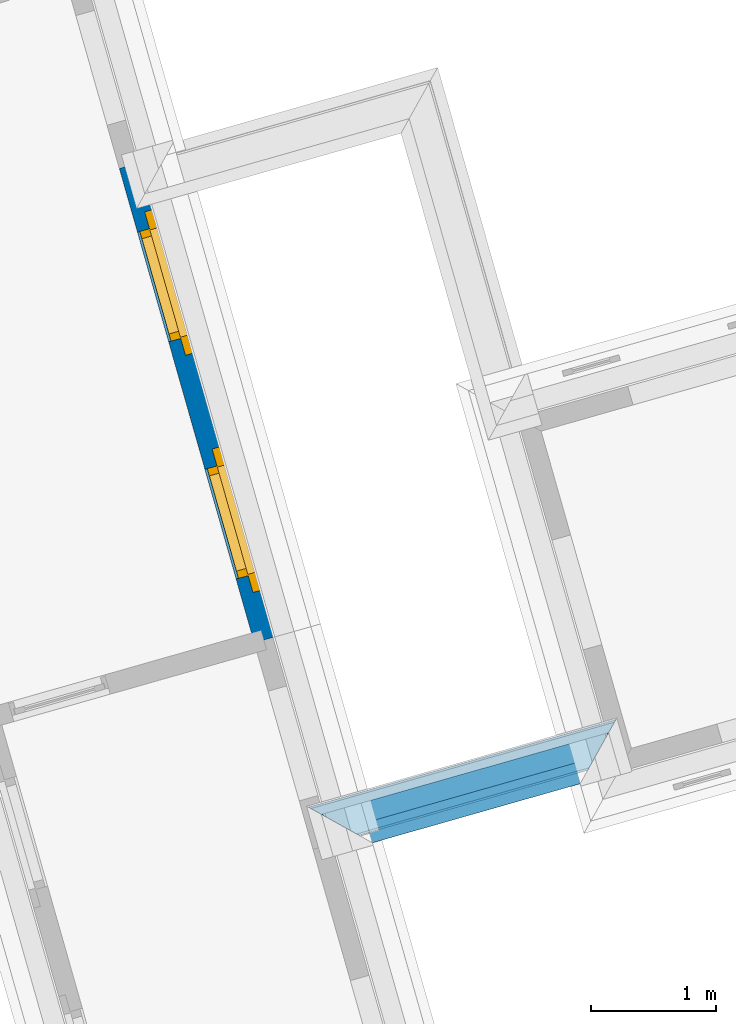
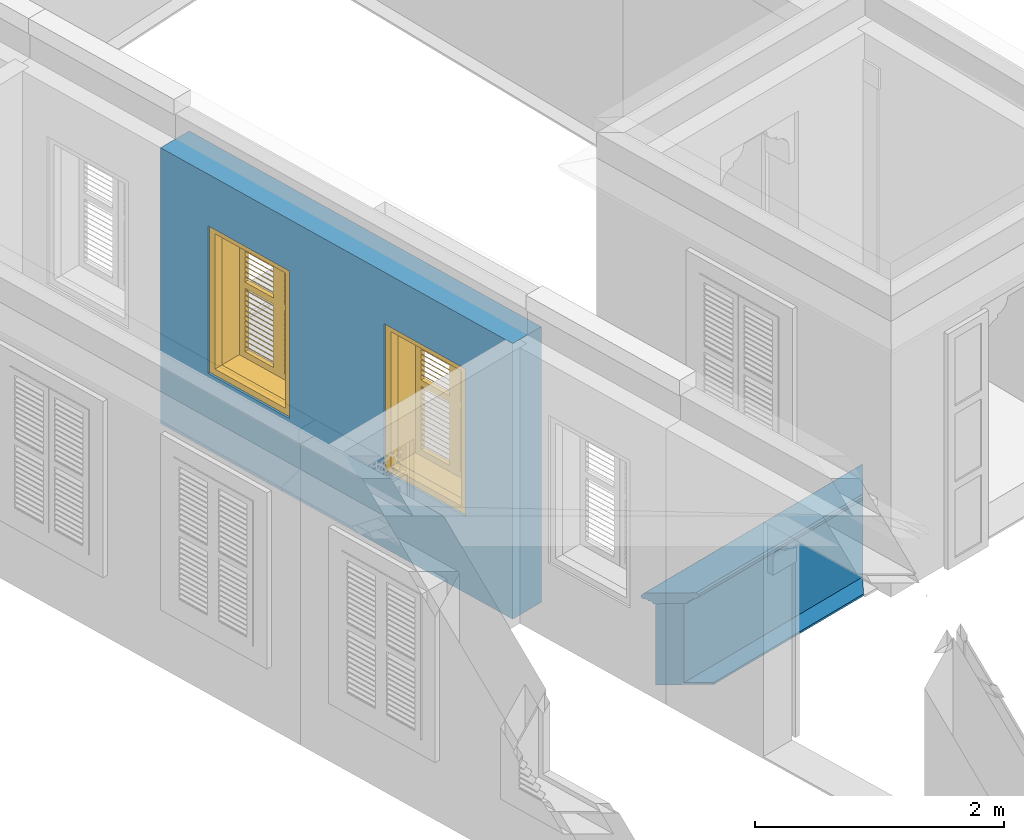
# One storey, part 4 of 13: 3 walls, 2 windows, 2 openings.
"""IFC4 building model written with IfcOpenShell, lengths in metres."""

from ifc_helpers import new_model, si_unit, frame, origin, origin_with_axes, place, context, subcontext, project, spatial, polyline, outline, extrude, clip, halfspace, faceted_brep, source, transform, mapped, material, layer, layer_set, layer_usage, material_profile, profile_set, profile_usage, type_object, type_shapes, element, fill, save


model = new_model("IFC4")

# Units and contexts
model_context = context("Model", 3, world=origin_with_axes())
body_context = subcontext(model_context, "Body", "Model", "MODEL_VIEW")
ifc_project = project(units=[si_unit("PLANEANGLEUNIT", "RADIAN"), si_unit("MASSUNIT", "GRAM", prefix="KILO"), si_unit("FORCEUNIT", "NEWTON", prefix="KILO"), si_unit("LENGTHUNIT", "METRE"), si_unit("AREAUNIT", "SQUARE_METRE"), si_unit("VOLUMEUNIT", "CUBIC_METRE")], contexts=[model_context, model_context])

# Site, building, storey
site_placement = place(None, origin_with_axes())
site = spatial("IfcSite", under=ifc_project, at=site_placement, Name="Site plot-3", CompositionType="ELEMENT")
building_placement = place(None, origin_with_axes())
building = spatial("IfcBuilding", under=site, at=building_placement, Name="Building plot-3", CompositionType="ELEMENT")
storey_placement = place(None, frame((0.0, 0.0, 3.3), z_axis=(0.0, 0.0, 1.0), x_axis=(1.0, 0.0, 0.0)))
storey = spatial("IfcBuildingStorey", under=building, at=storey_placement, Name="plot-3 1", CompositionType="ELEMENT", Elevation=3.3)

# Wall, openings, windows
ifc_material = material(Name="Masonry")
ifc_layer = layer(ifc_material, 0.33, ventilated=False)
ifc_layer_set = layer_set([ifc_layer], Name="exterior_0.08_0.25")
ifc_layer_usage = layer_usage(ifc_layer_set, "AXIS2", "POSITIVE", -0.25)
wall_type_1 = type_object("IfcWallType", Name="exterior_0.08_0.25", PredefinedType="SOLIDWALL", material=ifc_layer_set)
wall_1_placement = place(storey_placement, frame((11.135823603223, 21.3489503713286, 0.0), z_axis=(0.0, 0.0, 1.0), x_axis=(-0.273606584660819, 0.961841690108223, 0.0)))
wall_1 = element("IfcWall", 1, at=wall_1_placement, inside=storey, type_object=wall_type_1, material=ifc_layer_usage, Name="exterior", context=body_context, shape_type="SweptSolid", body=[
    extrude(outline(polyline([(-4.29388496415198e-15, 0.0799999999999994), (1.28938951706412e-14, -0.25), (3.93376585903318, -0.25), (3.93376585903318, 0.0800000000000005), (-4.29388496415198e-15, 0.0799999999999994)])), origin_with_axes(), (0.0, 0.0, 1.0), 2.7),
])
opening_1_placement = place(wall_1_placement, frame((0.528441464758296, 0.0, 0.75)))
opening_1 = element("IfcOpeningElement", 2, at=opening_1_placement, cuts=wall_1, Name="My Opening", ObjectType="Opening", context=body_context, shape_type="SweptSolid", body=[
    extrude(outline(polyline([(0.0, -0.269999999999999), (0.909999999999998, -0.27), (0.909999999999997, 1.1), (-5.55111512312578e-16, 1.1), (0.0, -0.269999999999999)])), origin_with_axes(), (0.0, 0.0, 1.0), 1.445),
])
opening_2_placement = place(wall_1_placement, frame((2.49532439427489, 0.0, 0.75)))
opening_2 = element("IfcOpeningElement", 3, at=opening_2_placement, cuts=wall_1, Name="My Opening", ObjectType="Opening", context=body_context, shape_type="SweptSolid", body=[
    extrude(outline(polyline([(0.0, -0.269999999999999), (0.909999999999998, -0.27), (0.909999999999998, 1.1), (0.0, 1.1), (0.0, -0.269999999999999)])), origin_with_axes(), (0.0, 0.0, 1.0), 1.445),
])
window_type = type_object("IfcWindowType", Name="shuttered_shorter", PartitioningType="DOUBLE_PANEL_HORIZONTAL", PredefinedType="NOTDEFINED")
shared_shape = source(origin(), body_context, "Body", "Brep", [
    faceted_brep([(0.393, 0.0, 0.622), (0.074, 0.0, 0.622), (0.074, 0.0, 0.632), (0.393, 0.0, 0.632), (0.074, -0.04, 0.592), (0.393, -0.04, 0.592), (0.393, -0.04, 0.582), (0.074, -0.04, 0.582), (0.517, 0.0, 0.682), (0.836, 0.0, 0.682), (0.836, 0.0, 0.672), (0.517, 0.0, 0.672), (0.517, -0.04, 0.642), (0.836, -0.04, 0.642), (0.836, -0.04, 0.632), (0.517, -0.04, 0.632), (0.517, 0.0, 0.632), (0.836, 0.0, 0.632), (0.836, 0.0, 0.622), (0.517, 0.0, 0.622), (0.517, -0.04, 0.592), (0.836, -0.04, 0.592), (0.836, -0.04, 0.582), (0.517, -0.04, 0.582), (0.517, 0.0, 0.232), (0.836, 0.0, 0.232), (0.836, 0.0, 0.222), (0.517, 0.0, 0.222), (0.517, -0.04, 0.192), (0.836, -0.04, 0.192), (0.836, -0.04, 0.182), (0.517, -0.04, 0.182), (0.517, 0.0, 0.532), (0.836, 0.0, 0.532), (0.836, 0.0, 0.522), (0.517, 0.0, 0.522), (0.517, -0.04, 0.492), (0.836, -0.04, 0.492), (0.836, -0.04, 0.482), (0.517, -0.04, 0.482), (0.517, 0.0, 0.482), (0.836, 0.0, 0.482), (0.836, 0.0, 0.472), (0.517, 0.0, 0.472), (0.517, -0.04, 0.442), (0.836, -0.04, 0.442), (0.836, -0.04, 0.432), (0.517, -0.04, 0.432), (0.517, 0.0, 0.582), (0.836, 0.0, 0.582), (0.836, 0.0, 0.572), (0.517, 0.0, 0.572), (0.517, -0.04, 0.542), (0.836, -0.04, 0.542), (0.836, -0.04, 0.532), (0.517, -0.04, 0.532), (0.517, 0.0, 0.182), (0.836, 0.0, 0.182), (0.836, 0.0, 0.172), (0.517, 0.0, 0.172), (0.517, -0.04, 0.142), (0.836, -0.04, 0.142), (0.836, -0.04, 0.132), (0.517, -0.04, 0.132), (0.517, 0.0, 0.382), (0.836, 0.0, 0.382), (0.836, 0.0, 0.372), (0.517, 0.0, 0.372), (0.517, -0.04, 0.342), (0.836, -0.04, 0.342), (0.836, -0.04, 0.332), (0.517, -0.04, 0.332), (0.517, 0.0, 0.432), (0.836, 0.0, 0.432), (0.836, 0.0, 0.422), (0.517, 0.0, 0.422), (0.517, -0.04, 0.392), (0.836, -0.04, 0.392), (0.836, -0.04, 0.382), (0.517, -0.04, 0.382), (0.517, 0.0, 0.132), (0.836, 0.0, 0.132), (0.836, 0.0, 0.122), (0.517, 0.0, 0.122), (0.517, -0.04, 0.092), (0.836, -0.04, 0.092), (0.836, -0.04, 0.082), (0.517, -0.04, 0.082), (0.517, 0.0, 0.282), (0.836, 0.0, 0.282), (0.836, 0.0, 0.272), (0.517, 0.0, 0.272), (0.517, -0.04, 0.242), (0.836, -0.04, 0.242), (0.836, -0.04, 0.232), (0.517, -0.04, 0.232), (0.517, 0.0, 0.332), (0.836, 0.0, 0.332), (0.836, 0.0, 0.322), (0.517, 0.0, 0.322), (0.517, -0.04, 0.292), (0.836, -0.04, 0.292), (0.836, -0.04, 0.282), (0.517, -0.04, 0.282), (0.517, 0.0, 1.362667), (0.836, 0.0, 1.362667), (0.836, 0.0, 1.352667), (0.517, 0.0, 1.352667), (0.517, -0.04, 1.322667), (0.836, -0.04, 1.322667), (0.836, -0.04, 1.312667), (0.517, -0.04, 1.312667), (0.517, 0.0, 1.312667), (0.836, 0.0, 1.312667), (0.836, 0.0, 1.302667), (0.517, 0.0, 1.302667), (0.517, -0.04, 1.272667), (0.836, -0.04, 1.272667), (0.836, -0.04, 1.262667), (0.517, -0.04, 1.262667), (0.517, 0.0, 0.912667), (0.836, 0.0, 0.912667), (0.836, 0.0, 0.902667), (0.517, 0.0, 0.902667), (0.517, -0.04, 0.872667), (0.836, -0.04, 0.872667), (0.836, -0.04, 0.862667), (0.517, -0.04, 0.862667), (0.517, 0.0, 1.212667), (0.836, 0.0, 1.212667), (0.836, 0.0, 1.202667), (0.517, 0.0, 1.202667), (0.517, -0.04, 1.172667), (0.836, -0.04, 1.172667), (0.836, -0.04, 1.162667), (0.517, -0.04, 1.162667), (0.517, 0.0, 1.162667), (0.836, 0.0, 1.162667), (0.836, 0.0, 1.152667), (0.517, 0.0, 1.152667), (0.517, -0.04, 1.122667), (0.836, -0.04, 1.122667), (0.836, -0.04, 1.112667), (0.517, -0.04, 1.112667), (0.517, 0.0, 1.262667), (0.836, 0.0, 1.262667), (0.836, 0.0, 1.252667), (0.517, 0.0, 1.252667), (0.517, -0.04, 1.222667), (0.836, -0.04, 1.222667), (0.836, -0.04, 1.212667), (0.517, -0.04, 1.212667), (0.517, 0.0, 0.862667), (0.836, 0.0, 0.862667), (0.836, 0.0, 0.852667), (0.517, 0.0, 0.852667), (0.517, -0.04, 0.822667), (0.836, -0.04, 0.822667), (0.836, -0.04, 0.812667), (0.517, -0.04, 0.812667), (0.517, 0.0, 1.062667), (0.836, 0.0, 1.062667), (0.836, 0.0, 1.052667), (0.517, 0.0, 1.052667), (0.517, -0.04, 1.022667), (0.836, -0.04, 1.022667), (0.836, -0.04, 1.012667), (0.517, -0.04, 1.012667), (0.517, 0.0, 1.112667), (0.836, 0.0, 1.112667), (0.836, 0.0, 1.102667), (0.517, 0.0, 1.102667), (0.517, -0.04, 1.072667), (0.836, -0.04, 1.072667), (0.836, -0.04, 1.062667), (0.517, -0.04, 1.062667), (0.517, 0.0, 0.812667), (0.836, 0.0, 0.812667), (0.836, 0.0, 0.802667), (0.517, 0.0, 0.802667), (0.517, -0.04, 0.772667), (0.836, -0.04, 0.772667), (0.836, -0.04, 0.762667), (0.517, -0.04, 0.762667), (0.517, 0.0, 0.962667), (0.836, 0.0, 0.962667), (0.836, 0.0, 0.952667), (0.517, 0.0, 0.952667), (0.517, -0.04, 0.922667), (0.836, -0.04, 0.922667), (0.836, -0.04, 0.912667), (0.517, -0.04, 0.912667), (0.517, 0.0, 1.012667), (0.836, 0.0, 1.012667), (0.836, 0.0, 1.002667), (0.517, 0.0, 1.002667), (0.517, -0.04, 0.972667), (0.836, -0.04, 0.972667), (0.836, -0.04, 0.962667), (0.517, -0.04, 0.962667), (0.074, 0.0, 0.682), (0.393, 0.0, 0.682), (0.393, 0.0, 0.672), (0.074, 0.0, 0.672), (0.074, -0.04, 0.642), (0.393, -0.04, 0.642), (0.393, -0.04, 0.632), (0.074, -0.04, 0.632), (0.074, 0.0, 0.232), (0.393, 0.0, 0.232), (0.393, 0.0, 0.222), (0.074, 0.0, 0.222), (0.074, -0.04, 0.192), (0.393, -0.04, 0.192), (0.393, -0.04, 0.182), (0.074, -0.04, 0.182), (0.074, 0.0, 0.532), (0.393, 0.0, 0.532), (0.393, 0.0, 0.522), (0.074, 0.0, 0.522), (0.074, -0.04, 0.492), (0.393, -0.04, 0.492), (0.393, -0.04, 0.482), (0.074, -0.04, 0.482), (0.074, 0.0, 0.482), (0.393, 0.0, 0.482), (0.393, 0.0, 0.472), (0.074, 0.0, 0.472), (0.074, -0.04, 0.442), (0.393, -0.04, 0.442), (0.393, -0.04, 0.432), (0.074, -0.04, 0.432), (0.074, 0.0, 0.582), (0.393, 0.0, 0.582), (0.393, 0.0, 0.572), (0.074, 0.0, 0.572), (0.074, -0.04, 0.542), (0.393, -0.04, 0.542), (0.393, -0.04, 0.532), (0.074, -0.04, 0.532), (0.074, 0.0, 0.182), (0.393, 0.0, 0.182), (0.393, 0.0, 0.172), (0.074, 0.0, 0.172), (0.074, -0.04, 0.142), (0.393, -0.04, 0.142), (0.393, -0.04, 0.132), (0.074, -0.04, 0.132), (0.074, 0.0, 0.382), (0.393, 0.0, 0.382), (0.393, 0.0, 0.372), (0.074, 0.0, 0.372), (0.074, -0.04, 0.342), (0.393, -0.04, 0.342), (0.393, -0.04, 0.332), (0.074, -0.04, 0.332), (0.074, 0.0, 0.432), (0.393, 0.0, 0.432), (0.393, 0.0, 0.422), (0.074, 0.0, 0.422), (0.074, -0.04, 0.392), (0.393, -0.04, 0.392), (0.393, -0.04, 0.382), (0.074, -0.04, 0.382), (0.074, 0.0, 0.132), (0.393, 0.0, 0.132), (0.393, 0.0, 0.122), (0.074, 0.0, 0.122), (0.074, -0.04, 0.092), (0.393, -0.04, 0.092), (0.393, -0.04, 0.082), (0.074, -0.04, 0.082), (0.074, 0.0, 0.282), (0.393, 0.0, 0.282), (0.393, 0.0, 0.272), (0.074, 0.0, 0.272), (0.074, -0.04, 0.242), (0.393, -0.04, 0.242), (0.393, -0.04, 0.232), (0.074, -0.04, 0.232), (0.074, 0.0, 0.332), (0.393, 0.0, 0.332), (0.393, 0.0, 0.322), (0.074, 0.0, 0.322), (0.074, -0.04, 0.292), (0.393, -0.04, 0.292), (0.393, -0.04, 0.282), (0.074, -0.04, 0.282), (0.074, 0.0, 1.362667), (0.393, 0.0, 1.362667), (0.393, 0.0, 1.352667), (0.074, 0.0, 1.352667), (0.074, -0.04, 1.322667), (0.393, -0.04, 1.322667), (0.393, -0.04, 1.312667), (0.074, -0.04, 1.312667), (0.074, 0.0, 1.312667), (0.393, 0.0, 1.312667), (0.393, 0.0, 1.302667), (0.074, 0.0, 1.302667), (0.074, -0.04, 1.272667), (0.393, -0.04, 1.272667), (0.393, -0.04, 1.262667), (0.074, -0.04, 1.262667), (0.074, 0.0, 0.912667), (0.393, 0.0, 0.912667), (0.393, 0.0, 0.902667), (0.074, 0.0, 0.902667), (0.074, -0.04, 0.872667), (0.393, -0.04, 0.872667), (0.393, -0.04, 0.862667), (0.074, -0.04, 0.862667), (0.074, 0.0, 1.212667), (0.393, 0.0, 1.212667), (0.393, 0.0, 1.202667), (0.074, 0.0, 1.202667), (0.074, -0.04, 1.172667), (0.393, -0.04, 1.172667), (0.393, -0.04, 1.162667), (0.074, -0.04, 1.162667), (0.074, 0.0, 1.162667), (0.393, 0.0, 1.162667), (0.393, 0.0, 1.152667), (0.074, 0.0, 1.152667), (0.074, -0.04, 1.122667), (0.393, -0.04, 1.122667), (0.393, -0.04, 1.112667), (0.074, -0.04, 1.112667), (0.074, 0.0, 1.262667), (0.393, 0.0, 1.262667), (0.393, 0.0, 1.252667), (0.074, 0.0, 1.252667), (0.074, -0.04, 1.222667), (0.393, -0.04, 1.222667), (0.393, -0.04, 1.212667), (0.074, -0.04, 1.212667), (0.074, 0.0, 0.862667), (0.393, 0.0, 0.862667), (0.393, 0.0, 0.852667), (0.074, 0.0, 0.852667), (0.074, -0.04, 0.822667), (0.393, -0.04, 0.822667), (0.393, -0.04, 0.812667), (0.074, -0.04, 0.812667), (0.074, 0.0, 1.062667), (0.393, 0.0, 1.062667), (0.393, 0.0, 1.052667), (0.074, 0.0, 1.052667), (0.074, -0.04, 1.022667), (0.393, -0.04, 1.022667), (0.393, -0.04, 1.012667), (0.074, -0.04, 1.012667), (0.074, 0.0, 1.112667), (0.393, 0.0, 1.112667), (0.393, 0.0, 1.102667), (0.074, 0.0, 1.102667), (0.074, -0.04, 1.072667), (0.393, -0.04, 1.072667), (0.393, -0.04, 1.062667), (0.074, -0.04, 1.062667), (0.074, 0.0, 0.812667), (0.393, 0.0, 0.812667), (0.393, 0.0, 0.802667), (0.074, 0.0, 0.802667), (0.074, -0.04, 0.772667), (0.393, -0.04, 0.772667), (0.393, -0.04, 0.762667), (0.074, -0.04, 0.762667), (0.074, 0.0, 0.962667), (0.393, 0.0, 0.962667), (0.393, 0.0, 0.952667), (0.074, 0.0, 0.952667), (0.074, -0.04, 0.922667), (0.393, -0.04, 0.922667), (0.393, -0.04, 0.912667), (0.074, -0.04, 0.912667), (0.074, 0.0, 1.012667), (0.393, 0.0, 1.012667), (0.393, 0.0, 1.002667), (0.074, 0.0, 1.002667), (0.074, -0.04, 0.972667), (0.393, -0.04, 0.972667), (0.393, -0.04, 0.962667), (0.074, -0.04, 0.962667), (0.517, -0.04, 0.072), (0.457, -0.04, 0.012), (0.896, -0.04, 0.012), (0.836, -0.04, 0.072), (0.457, -0.04, 0.692667), (0.517, -0.04, 0.692667), (0.457, 0.0, 0.012), (0.896, 0.0, 0.012), (0.836, -0.04, 0.692667), (0.896, -0.04, 0.692667), (0.836, 0.0, 0.072), (0.517, 0.0, 0.072), (0.457, 0.0, 0.692667), (0.517, 0.0, 0.692667), (0.517, -0.04, 0.752666), (0.457, -0.04, 0.752666), (0.896, 0.0, 0.692667), (0.836, 0.0, 0.692667), (0.836, -0.04, 0.752666), (0.896, -0.04, 0.752666), (0.457, 0.0, 0.752666), (0.457, -0.04, 1.433333), (0.517, -0.04, 1.373333), (0.896, 0.0, 0.752666), (0.836, -0.04, 1.373333), (0.896, -0.04, 1.433333), (0.457, 0.0, 1.433333), (0.517, 0.0, 0.752666), (0.836, 0.0, 0.752666), (0.517, 0.0, 1.373333), (0.896, 0.0, 1.433333), (0.836, 0.0, 1.373333), (0.074, -0.04, 0.072), (0.014, -0.04, 0.012), (0.453, -0.04, 0.012), (0.393, -0.04, 0.072), (0.014, -0.04, 0.692667), (0.074, -0.04, 0.692667), (0.014, 0.0, 0.012), (0.453, 0.0, 0.012), (0.393, -0.04, 0.692667), (0.453, -0.04, 0.692667), (0.393, 0.0, 0.072), (0.074, 0.0, 0.072), (0.014, 0.0, 0.692667), (0.074, 0.0, 0.692667), (0.074, -0.04, 0.752666), (0.014, -0.04, 0.752666), (0.453, 0.0, 0.692667), (0.393, 0.0, 0.692667), (0.393, -0.04, 0.752666), (0.453, -0.04, 0.752666), (0.014, 0.0, 0.752666), (0.014, -0.04, 1.433333), (0.074, -0.04, 1.373333), (0.453, 0.0, 0.752666), (0.393, -0.04, 1.373333), (0.453, -0.04, 1.433333), (0.014, 0.0, 1.433333), (0.074, 0.0, 0.752666), (0.393, 0.0, 0.752666), (0.074, 0.0, 1.373333), (0.453, 0.0, 1.433333), (0.393, 0.0, 1.373333), (0.0, 0.33, 1.445), (0.91, 0.33, 1.445), (0.85, 0.33, 1.385), (0.06, 0.33, 1.385), (0.91, 0.25, 1.445), (0.0, 0.25, 1.445), (0.91, 0.25, 1.445), (0.85, 0.33, 0.06), (0.91, 0.33, 0.0), (0.85, 0.25, 1.385), (0.06, 0.25, 1.385), (0.0, 0.33, 0.0), (0.06, 0.33, 0.06), (0.0, 0.25, 0.0), (0.91, 0.25, 0.0), (0.85, 0.25, 0.06), (0.06, 0.25, 0.06), (1.05, 0.25, 1.585), (-0.14, 0.25, 1.585), (-0.14, -0.03, 1.585), (1.05, -0.03, 1.585), (0.9, -0.03, 1.435), (0.01, -0.03, 1.435), (0.01, 0.25, 1.435), (0.9, 0.25, 1.435), (0.9, 0.25, 0.01), (0.9, -0.03, 0.01), (1.05, -0.03, -0.14), (1.05, 0.25, -0.14), (0.01, -0.03, 0.01), (0.01, 0.25, 0.01), (-0.14, -0.03, -0.14), (-0.14, 0.25, -0.14)], [[[0, 1, 2, 3]], [[4, 5, 3, 2]], [[5, 6, 0, 3]], [[1, 0, 6, 7]], [[2, 1, 7, 4]], [[5, 4, 7, 6]], [[8, 9, 10, 11]], [[12, 13, 9, 8]], [[13, 14, 10, 9]], [[14, 15, 11, 10]], [[15, 12, 8, 11]], [[13, 12, 15, 14]], [[16, 17, 18, 19]], [[20, 21, 17, 16]], [[21, 22, 18, 17]], [[22, 23, 19, 18]], [[23, 20, 16, 19]], [[21, 20, 23, 22]], [[24, 25, 26, 27]], [[28, 29, 25, 24]], [[29, 30, 26, 25]], [[30, 31, 27, 26]], [[31, 28, 24, 27]], [[29, 28, 31, 30]], [[32, 33, 34, 35]], [[36, 37, 33, 32]], [[37, 38, 34, 33]], [[38, 39, 35, 34]], [[39, 36, 32, 35]], [[37, 36, 39, 38]], [[40, 41, 42, 43]], [[44, 45, 41, 40]], [[45, 46, 42, 41]], [[46, 47, 43, 42]], [[47, 44, 40, 43]], [[45, 44, 47, 46]], [[48, 49, 50, 51]], [[52, 53, 49, 48]], [[53, 54, 50, 49]], [[54, 55, 51, 50]], [[55, 52, 48, 51]], [[53, 52, 55, 54]], [[56, 57, 58, 59]], [[60, 61, 57, 56]], [[61, 62, 58, 57]], [[62, 63, 59, 58]], [[63, 60, 56, 59]], [[61, 60, 63, 62]], [[64, 65, 66, 67]], [[68, 69, 65, 64]], [[69, 70, 66, 65]], [[70, 71, 67, 66]], [[71, 68, 64, 67]], [[69, 68, 71, 70]], [[72, 73, 74, 75]], [[76, 77, 73, 72]], [[77, 78, 74, 73]], [[78, 79, 75, 74]], [[79, 76, 72, 75]], [[77, 76, 79, 78]], [[80, 81, 82, 83]], [[84, 85, 81, 80]], [[85, 86, 82, 81]], [[86, 87, 83, 82]], [[87, 84, 80, 83]], [[85, 84, 87, 86]], [[88, 89, 90, 91]], [[92, 93, 89, 88]], [[93, 94, 90, 89]], [[94, 95, 91, 90]], [[95, 92, 88, 91]], [[93, 92, 95, 94]], [[96, 97, 98, 99]], [[100, 101, 97, 96]], [[101, 102, 98, 97]], [[102, 103, 99, 98]], [[103, 100, 96, 99]], [[101, 100, 103, 102]], [[104, 105, 106, 107]], [[108, 109, 105, 104]], [[109, 110, 106, 105]], [[110, 111, 107, 106]], [[111, 108, 104, 107]], [[109, 108, 111, 110]], [[112, 113, 114, 115]], [[116, 117, 113, 112]], [[117, 118, 114, 113]], [[118, 119, 115, 114]], [[119, 116, 112, 115]], [[117, 116, 119, 118]], [[120, 121, 122, 123]], [[124, 125, 121, 120]], [[125, 126, 122, 121]], [[126, 127, 123, 122]], [[127, 124, 120, 123]], [[125, 124, 127, 126]], [[128, 129, 130, 131]], [[132, 133, 129, 128]], [[133, 134, 130, 129]], [[134, 135, 131, 130]], [[135, 132, 128, 131]], [[133, 132, 135, 134]], [[136, 137, 138, 139]], [[140, 141, 137, 136]], [[141, 142, 138, 137]], [[142, 143, 139, 138]], [[139, 143, 140, 136]], [[141, 140, 143, 142]], [[144, 145, 146, 147]], [[148, 149, 145, 144]], [[149, 150, 146, 145]], [[150, 151, 147, 146]], [[151, 148, 144, 147]], [[149, 148, 151, 150]], [[152, 153, 154, 155]], [[156, 157, 153, 152]], [[157, 158, 154, 153]], [[158, 159, 155, 154]], [[159, 156, 152, 155]], [[157, 156, 159, 158]], [[160, 161, 162, 163]], [[164, 165, 161, 160]], [[165, 166, 162, 161]], [[166, 167, 163, 162]], [[167, 164, 160, 163]], [[165, 164, 167, 166]], [[168, 169, 170, 171]], [[172, 173, 169, 168]], [[173, 174, 170, 169]], [[174, 175, 171, 170]], [[175, 172, 168, 171]], [[173, 172, 175, 174]], [[176, 177, 178, 179]], [[180, 181, 177, 176]], [[181, 182, 178, 177]], [[182, 183, 179, 178]], [[183, 180, 176, 179]], [[181, 180, 183, 182]], [[184, 185, 186, 187]], [[188, 189, 185, 184]], [[189, 190, 186, 185]], [[190, 191, 187, 186]], [[191, 188, 184, 187]], [[189, 188, 191, 190]], [[192, 193, 194, 195]], [[196, 197, 193, 192]], [[197, 198, 194, 193]], [[198, 199, 195, 194]], [[199, 196, 192, 195]], [[197, 196, 199, 198]], [[200, 201, 202, 203]], [[204, 205, 201, 200]], [[205, 206, 202, 201]], [[206, 207, 203, 202]], [[207, 204, 200, 203]], [[205, 204, 207, 206]], [[208, 209, 210, 211]], [[212, 213, 209, 208]], [[213, 214, 210, 209]], [[214, 215, 211, 210]], [[215, 212, 208, 211]], [[213, 212, 215, 214]], [[216, 217, 218, 219]], [[220, 221, 217, 216]], [[221, 222, 218, 217]], [[222, 223, 219, 218]], [[223, 220, 216, 219]], [[221, 220, 223, 222]], [[224, 225, 226, 227]], [[228, 229, 225, 224]], [[229, 230, 226, 225]], [[230, 231, 227, 226]], [[231, 228, 224, 227]], [[229, 228, 231, 230]], [[232, 233, 234, 235]], [[236, 237, 233, 232]], [[237, 238, 234, 233]], [[238, 239, 235, 234]], [[239, 236, 232, 235]], [[237, 236, 239, 238]], [[240, 241, 242, 243]], [[244, 245, 241, 240]], [[245, 246, 242, 241]], [[246, 247, 243, 242]], [[247, 244, 240, 243]], [[245, 244, 247, 246]], [[248, 249, 250, 251]], [[252, 253, 249, 248]], [[253, 254, 250, 249]], [[254, 255, 251, 250]], [[255, 252, 248, 251]], [[253, 252, 255, 254]], [[256, 257, 258, 259]], [[260, 261, 257, 256]], [[261, 262, 258, 257]], [[262, 263, 259, 258]], [[263, 260, 256, 259]], [[261, 260, 263, 262]], [[264, 265, 266, 267]], [[268, 269, 265, 264]], [[269, 270, 266, 265]], [[270, 271, 267, 266]], [[271, 268, 264, 267]], [[269, 268, 271, 270]], [[272, 273, 274, 275]], [[276, 277, 273, 272]], [[277, 278, 274, 273]], [[278, 279, 275, 274]], [[279, 276, 272, 275]], [[277, 276, 279, 278]], [[280, 281, 282, 283]], [[284, 285, 281, 280]], [[285, 286, 282, 281]], [[286, 287, 283, 282]], [[287, 284, 280, 283]], [[285, 284, 287, 286]], [[288, 289, 290, 291]], [[292, 293, 289, 288]], [[293, 294, 290, 289]], [[294, 295, 291, 290]], [[295, 292, 288, 291]], [[293, 292, 295, 294]], [[296, 297, 298, 299]], [[300, 301, 297, 296]], [[301, 302, 298, 297]], [[302, 303, 299, 298]], [[303, 300, 296, 299]], [[301, 300, 303, 302]], [[304, 305, 306, 307]], [[308, 309, 305, 304]], [[309, 310, 306, 305]], [[310, 311, 307, 306]], [[311, 308, 304, 307]], [[309, 308, 311, 310]], [[312, 313, 314, 315]], [[316, 317, 313, 312]], [[317, 318, 314, 313]], [[318, 319, 315, 314]], [[319, 316, 312, 315]], [[317, 316, 319, 318]], [[320, 321, 322, 323]], [[324, 325, 321, 320]], [[325, 326, 322, 321]], [[326, 327, 323, 322]], [[327, 324, 320, 323]], [[325, 324, 327, 326]], [[328, 329, 330, 331]], [[332, 333, 329, 328]], [[333, 334, 330, 329]], [[334, 335, 331, 330]], [[335, 332, 328, 331]], [[333, 332, 335, 334]], [[336, 337, 338, 339]], [[340, 341, 337, 336]], [[341, 342, 338, 337]], [[342, 343, 339, 338]], [[343, 340, 336, 339]], [[341, 340, 343, 342]], [[344, 345, 346, 347]], [[348, 349, 345, 344]], [[349, 350, 346, 345]], [[350, 351, 347, 346]], [[351, 348, 344, 347]], [[349, 348, 351, 350]], [[352, 353, 354, 355]], [[356, 357, 353, 352]], [[357, 358, 354, 353]], [[358, 359, 355, 354]], [[359, 356, 352, 355]], [[357, 356, 359, 358]], [[360, 361, 362, 363]], [[364, 365, 361, 360]], [[365, 366, 362, 361]], [[366, 367, 363, 362]], [[367, 364, 360, 363]], [[365, 364, 367, 366]], [[368, 369, 370, 371]], [[372, 373, 369, 368]], [[373, 374, 370, 369]], [[374, 375, 371, 370]], [[375, 372, 368, 371]], [[373, 372, 375, 374]], [[376, 377, 378, 379]], [[380, 381, 377, 376]], [[381, 382, 378, 377]], [[382, 383, 379, 378]], [[383, 380, 376, 379]], [[381, 380, 383, 382]], [[384, 385, 386, 387]], [[388, 385, 384, 389]], [[390, 391, 386, 385]], [[392, 387, 386, 393]], [[384, 387, 394, 395]], [[390, 385, 388, 396]], [[389, 384, 395, 397]], [[389, 398, 399, 388]], [[390, 395, 394, 391]], [[400, 393, 386, 391]], [[387, 392, 401, 394]], [[402, 392, 393, 403]], [[396, 388, 399, 404]], [[390, 396, 397, 395]], [[392, 389, 397, 401]], [[398, 389, 392, 402]], [[405, 399, 398, 406]], [[394, 401, 400, 391]], [[407, 403, 393, 400]], [[408, 402, 403, 409]], [[404, 399, 405, 410]], [[411, 397, 396, 404]], [[397, 411, 412, 401]], [[398, 402, 412, 411]], [[406, 398, 411, 413]], [[405, 406, 408, 409]], [[401, 412, 407, 400]], [[414, 409, 403, 407]], [[402, 408, 415, 412]], [[405, 409, 414, 410]], [[404, 410, 413, 411]], [[408, 406, 413, 415]], [[412, 415, 414, 407]], [[413, 410, 414, 415]], [[416, 417, 418, 419]], [[420, 417, 416, 421]], [[422, 423, 418, 417]], [[424, 419, 418, 425]], [[416, 419, 426, 427]], [[422, 417, 420, 428]], [[421, 416, 427, 429]], [[421, 430, 431, 420]], [[422, 427, 426, 423]], [[432, 425, 418, 423]], [[419, 424, 433, 426]], [[434, 424, 425, 435]], [[428, 420, 431, 436]], [[422, 428, 429, 427]], [[424, 421, 429, 433]], [[430, 421, 424, 434]], [[437, 431, 430, 438]], [[426, 433, 432, 423]], [[439, 435, 425, 432]], [[440, 434, 435, 441]], [[436, 431, 437, 442]], [[443, 429, 428, 436]], [[429, 443, 444, 433]], [[430, 434, 444, 443]], [[438, 430, 443, 445]], [[437, 438, 440, 441]], [[433, 444, 439, 432]], [[446, 441, 435, 439]], [[434, 440, 447, 444]], [[437, 441, 446, 442]], [[436, 442, 445, 443]], [[440, 438, 445, 447]], [[444, 447, 446, 439]], [[445, 442, 446, 447]], [[448, 449, 450, 451]], [[452, 449, 448]], [[448, 453, 454]], [[448, 454, 452]], [[455, 450, 449, 456]], [[451, 450, 457, 458]], [[459, 448, 451, 460]], [[448, 459, 461, 453]], [[454, 453, 458, 457]], [[462, 452, 454]], [[454, 457, 463]], [[454, 463, 462]], [[456, 449, 452, 462]], [[450, 455, 463, 457]], [[456, 459, 460, 455]], [[460, 451, 458, 464]], [[459, 456, 462, 461]], [[464, 458, 453, 461]], [[461, 462, 463, 464]], [[455, 460, 464, 463]], [[465, 466, 467, 468]], [[469, 470, 471, 472]], [[473, 474, 469, 472]], [[465, 468, 475, 476]], [[470, 477, 478, 471]], [[474, 473, 478, 477]], [[474, 477, 479, 475]], [[470, 467, 479, 477]], [[470, 469, 468, 467]], [[474, 475, 468, 469]], [[471, 478, 480, 466]], [[473, 472, 465, 476]], [[473, 476, 480, 478]], [[466, 465, 472, 471]], [[480, 476, 475, 479]], [[480, 479, 467, 466]]]),
])
type_shapes(window_type, [shared_shape])
window_1_placement = place(storey_placement, frame((11.2509357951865, 21.9311011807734, 0.75), z_axis=(0.0, 0.0, 1.0), x_axis=(-0.248981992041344, 0.875275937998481, 0.0)))
window_1 = element("IfcWindow", 4, at=window_1_placement, inside=storey, type_object=window_type, Name="bedroom sahn window", OverallHeight=1.445, OverallWidth=0.91, context=body_context, shape_type="MappedRepresentation", body=[
    mapped(shared_shape, transform((0.0, 0.0, 0.0), scale=1.0)),
])
fill(opening_1, window_1)
window_2_placement = place(storey_placement, frame((10.7127836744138, 23.8229311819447, 0.75), z_axis=(0.0, 0.0, 1.0), x_axis=(-0.248981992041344, 0.875275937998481, 0.0)))
window_2 = element("IfcWindow", 5, at=window_2_placement, inside=storey, type_object=window_type, Name="bedroom sahn window", OverallHeight=1.445, OverallWidth=0.91, context=body_context, shape_type="MappedRepresentation", body=[
    mapped(shared_shape, transform((0.0, 0.0, 0.0), scale=1.0)),
])
fill(opening_2, window_2)

# Walls
ifc_material_profile_1 = material_profile(None, outline(polyline([(0.25, 0.0), (0.25, 0.795), (0.09, 0.795), (0.09, 0.02), (-0.08, 0.02), (-0.08, 0.0), (0.25, 0.0)])))
ifc_profile_set_1 = profile_set([ifc_material_profile_1])
ifc_profile_usage_1 = profile_usage(ifc_profile_set_1)
wall_type_2 = type_object("IfcWallType", Name="parapet internal_0", PredefinedType="PARAPET", material=ifc_profile_set_1)
wall_2_placement = place(storey_placement, frame((10.940853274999, 19.5124835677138, 0.0), z_axis=(0.961841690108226, 0.273606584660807, 0.0), x_axis=(-0.273606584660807, 0.961841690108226, 0.0)))
element("IfcWall", 6, at=wall_2_placement, inside=storey, type_object=wall_type_2, material=ifc_profile_usage_1, Name="parapet internal_0", context=body_context, shape_type="Clipping", body=[
    clip(clip(extrude(outline(polyline([(0.25, 0.0), (0.25, 0.795), (0.09, 0.795), (0.09, 0.02), (-0.08, 0.02), (-0.08, 0.0), (0.25, 0.0)])), origin_with_axes(), (0.0, 0.0, 1.0), 3.88293777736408), halfspace(frame((0.0, 0.0, 2.88293777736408), z_axis=(0.70710678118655, 0.0, -0.707106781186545), x_axis=(0.0, 1.0, 0.0)), True)), halfspace(frame((0.0, 0.0, 1.0), z_axis=(-0.707106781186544, 0.0, -0.707106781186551), x_axis=(0.0, 1.0, 0.0)), False)),
])
ifc_material_profile_2 = material_profile(None, outline(polyline([(0.265, 0.795), (0.268, 0.807), (0.274, 0.816), (0.283, 0.822), (0.295, 0.825), (0.295, 0.84), (0.305, 0.84), (0.317, 0.842), (0.326, 0.849), (0.333, 0.858), (0.335, 0.87), (0.333, 0.882), (0.326, 0.891), (0.317, 0.898), (0.305, 0.9), (0.035, 0.9), (0.023, 0.898), (0.014, 0.891), (0.007, 0.882), (0.005, 0.87), (0.007, 0.858), (0.014, 0.849), (0.023, 0.842), (0.035, 0.84), (0.045, 0.84), (0.045, 0.825), (0.057, 0.822), (0.066, 0.816), (0.072, 0.807), (0.075, 0.795), (0.265, 0.795)])))
ifc_profile_set_2 = profile_set([ifc_material_profile_2])
ifc_profile_usage_2 = profile_usage(ifc_profile_set_2)
wall_type_3 = type_object("IfcWallType", Name="parapet internal_1", PredefinedType="PARAPET", material=ifc_profile_set_2)
wall_3_placement = place(storey_placement, frame((10.940853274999, 19.5124835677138, 0.0), z_axis=(0.961841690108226, 0.273606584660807, 0.0), x_axis=(-0.273606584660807, 0.961841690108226, 0.0)))
element("IfcWall", 7, at=wall_3_placement, inside=storey, type_object=wall_type_3, material=ifc_profile_usage_2, Name="parapet internal_1", context=body_context, shape_type="Clipping", body=[
    clip(clip(extrude(outline(polyline([(0.265, 0.795), (0.268, 0.807), (0.274, 0.816), (0.283, 0.822), (0.295, 0.825), (0.295, 0.84), (0.305, 0.84), (0.317, 0.842), (0.326, 0.849), (0.333, 0.858), (0.335, 0.87), (0.333, 0.882), (0.326, 0.891), (0.317, 0.898), (0.305, 0.9), (0.035, 0.9), (0.023, 0.898), (0.014, 0.891), (0.007, 0.882), (0.005, 0.87), (0.007, 0.858), (0.014, 0.849), (0.023, 0.842), (0.035, 0.84), (0.045, 0.84), (0.045, 0.825), (0.057, 0.822), (0.066, 0.816), (0.072, 0.807), (0.075, 0.795), (0.265, 0.795)])), origin_with_axes(), (0.0, 0.0, 1.0), 3.88293777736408), halfspace(frame((0.0, 0.0, 2.88293777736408), z_axis=(0.70710678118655, 0.0, -0.707106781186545), x_axis=(0.0, 1.0, 0.0)), True)), halfspace(frame((0.0, 0.0, 1.0), z_axis=(-0.707106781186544, 0.0, -0.707106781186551), x_axis=(0.0, 1.0, 0.0)), False)),
])

save(model, "model.ifc")
